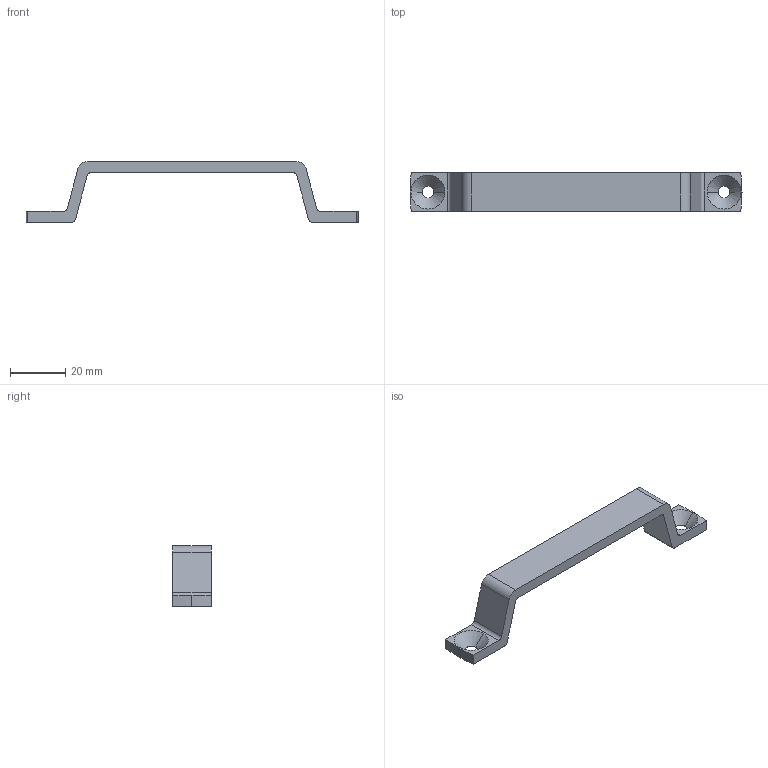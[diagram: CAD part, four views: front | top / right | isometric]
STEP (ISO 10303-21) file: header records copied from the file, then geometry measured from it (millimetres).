
FILE_DESCRIPTION((''),'2;1');
FILE_NAME('6420.03.stp','2023-10-10T09:57:21',(''),(''),'Mechanical Desktop 2006','Mechanical Desktop 2006',', , ');
FILE_SCHEMA(('CONFIG_CONTROL_DESIGN'));
Length unit declared in the file: millimetre
Products named in the file (2): Product; *U24
Assembly tree (1 placements, depth 2):
  Product
    *U24
Bounding box: 120 x 14 x 22 mm (x, y, z)
Volume: 7679.2 mm3; surface area: 5372.6 mm2
Topology: 1 solids, 1 shells, 28 faces, 78 edges, 52 vertices
Faces by surface type: cylinder 12, plane 12, cone 4
Entity records: 1031 total; most frequent: DIRECTION 170, CARTESIAN_POINT 160, ORIENTED_EDGE 156, EDGE_CURVE 78, AXIS2_PLACEMENT_3D 62, VERTEX_POINT 52, VECTOR 46, LINE 46
